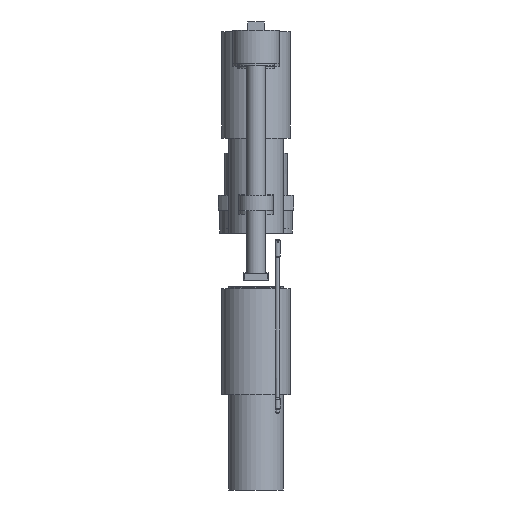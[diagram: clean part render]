
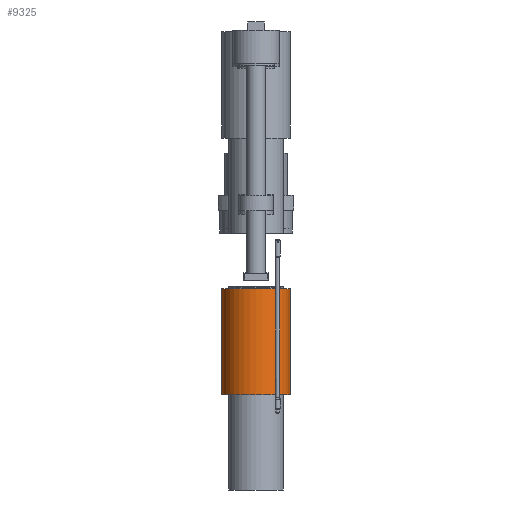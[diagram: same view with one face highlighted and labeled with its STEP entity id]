
A CAD part, front view. The second image highlights one B-rep face of the part: STEP entity #9325.
In plain terms, the highlighted cylindrical face has radius 453 mm (diameter 906 mm), a full revolution.
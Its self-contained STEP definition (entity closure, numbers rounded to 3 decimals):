
#8793=CYLINDRICAL_SURFACE('',#21910,453.);
#9325=ADVANCED_FACE('',(#10758,#10759),#8793,.T.);
#10758=FACE_BOUND('',#11600,.T.);
#10759=FACE_BOUND('',#11601,.T.);
#11600=EDGE_LOOP('',(#14642));
#11601=EDGE_LOOP('',(#14643));
#14642=ORIENTED_EDGE('',*,*,#20077,.F.);
#14643=ORIENTED_EDGE('',*,*,#20051,.T.);
#18007=VERTEX_POINT('',#33811);
#18033=VERTEX_POINT('',#34002);
#20051=EDGE_CURVE('',#18007,#18007,#21400,.T.);
#20077=EDGE_CURVE('',#18033,#18033,#21402,.T.);
#21400=CIRCLE('',#21906,453.);
#21402=CIRCLE('',#21909,453.);
#21906=AXIS2_PLACEMENT_3D('',#33810,#23796,#23797);
#21909=AXIS2_PLACEMENT_3D('',#34001,#23802,#23803);
#21910=AXIS2_PLACEMENT_3D('',#34003,#23804,#23805);
#23796=DIRECTION('',(0.,0.,-1.));
#23797=DIRECTION('',(0.,1.,0.));
#23802=DIRECTION('',(0.,0.,-1.));
#23803=DIRECTION('',(0.,1.,0.));
#23804=DIRECTION('',(0.,0.,-1.));
#23805=DIRECTION('',(0.,1.,0.));
#33810=CARTESIAN_POINT('',(0.,1500.,6765.));
#33811=CARTESIAN_POINT('',(0.,1953.,6765.));
#34001=CARTESIAN_POINT('',(0.,1500.,5359.));
#34002=CARTESIAN_POINT('',(0.,1953.,5359.));
#34003=CARTESIAN_POINT('',(0.,1500.,7007.));
